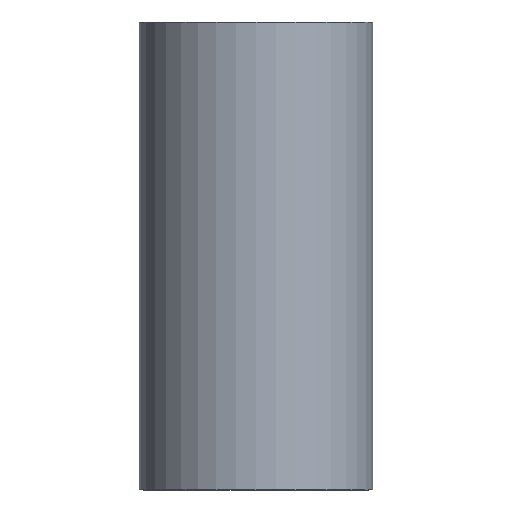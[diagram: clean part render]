
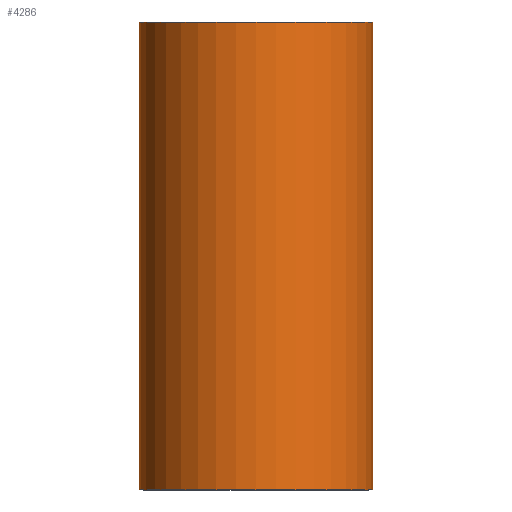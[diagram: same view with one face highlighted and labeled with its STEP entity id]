
A CAD part, front view. The second image highlights one B-rep face of the part: STEP entity #4286.
In plain terms, the highlighted cylindrical face has radius 45 mm (diameter 90 mm), a partial arc.
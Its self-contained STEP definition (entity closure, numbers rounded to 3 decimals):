
#287=CIRCLE('',#4766,45.);
#289=CIRCLE('',#4770,45.);
#373=CYLINDRICAL_SURFACE('',#4769,45.);
#634=FACE_OUTER_BOUND('',#903,.T.);
#903=EDGE_LOOP('',(#3852,#3853,#3854,#3855));
#1300=LINE('',#7394,#1697);
#1301=LINE('',#7397,#1698);
#1697=VECTOR('',#6081,304.8);
#1698=VECTOR('',#6084,304.8);
#2076=VERTEX_POINT('',#7385);
#2077=VERTEX_POINT('',#7387);
#2078=VERTEX_POINT('',#7393);
#2079=VERTEX_POINT('',#7395);
#2667=EDGE_CURVE('',#2077,#2076,#287,.T.);
#2670=EDGE_CURVE('',#2078,#2076,#1300,.T.);
#2671=EDGE_CURVE('',#2079,#2078,#289,.T.);
#2672=EDGE_CURVE('',#2077,#2079,#1301,.T.);
#3852=ORIENTED_EDGE('',*,*,#2670,.F.);
#3853=ORIENTED_EDGE('',*,*,#2671,.F.);
#3854=ORIENTED_EDGE('',*,*,#2672,.F.);
#3855=ORIENTED_EDGE('',*,*,#2667,.T.);
#4286=ADVANCED_FACE('',(#634),#373,.T.);
#4766=AXIS2_PLACEMENT_3D('',#7388,#6072,#6073);
#4769=AXIS2_PLACEMENT_3D('',#7392,#6079,#6080);
#4770=AXIS2_PLACEMENT_3D('',#7396,#6082,#6083);
#6072=DIRECTION('center_axis',(0.,0.,1.));
#6073=DIRECTION('ref_axis',(-1.,0.,0.));
#6079=DIRECTION('center_axis',(0.,0.,1.));
#6080=DIRECTION('ref_axis',(-1.,0.,0.));
#6081=DIRECTION('',(0.,0.,-1.));
#6082=DIRECTION('center_axis',(0.,0.,1.));
#6083=DIRECTION('ref_axis',(-1.,0.,0.));
#6084=DIRECTION('',(0.,0.,1.));
#7385=CARTESIAN_POINT('',(-45.,0.,-24.721));
#7387=CARTESIAN_POINT('',(45.,0.,-24.721));
#7388=CARTESIAN_POINT('Origin',(0.,0.,
-24.721));
#7392=CARTESIAN_POINT('Origin',(0.,0.,
70.139));
#7393=CARTESIAN_POINT('',(-45.,0.,155.279));
#7394=CARTESIAN_POINT('',(-45.,0.,155.279));
#7395=CARTESIAN_POINT('',(45.,0.,155.279));
#7396=CARTESIAN_POINT('Origin',(0.,0.,
155.279));
#7397=CARTESIAN_POINT('',(45.,0.,-24.721));
